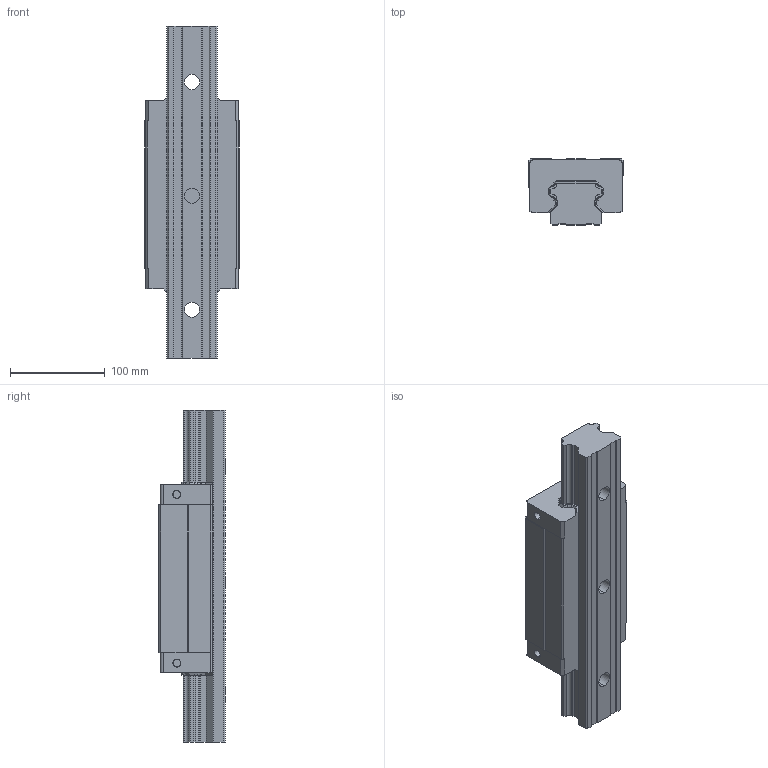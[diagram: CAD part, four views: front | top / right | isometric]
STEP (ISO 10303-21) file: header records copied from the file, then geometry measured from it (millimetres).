
FILE_DESCRIPTION (( 'STEP AP214' ), '1' );
FILE_NAME ('2.1043 Lineaarikelkka HGL55HA.STEP', '2025-09-19T06:37:12', ( '' ), ( '' ), 'SwSTEP 2.0', 'SolidWorks 2025', '' );
FILE_SCHEMA (( 'AUTOMOTIVE_DESIGN' ));
Length unit declared in the file: millimetre
Products named in the file (1): 2.1043 Lineaarikelkka HGL55HA
Bounding box: 100 x 70 x 350 mm (x, y, z)
Volume: 1492001.9 mm3; surface area: 170360.1 mm2
Topology: 2 solids, 2 shells, 179 faces, 492 edges, 328 vertices
Faces by surface type: plane 123, cylinder 36, cone 12, bspline 8
Entity records: 8035 total; most frequent: CARTESIAN_POINT 1448, ORIENTED_EDGE 984, DIRECTION 900, EDGE_CURVE 492, LINE 364, VECTOR 364, VERTEX_POINT 328, AXIS2_PLACEMENT_3D 268
